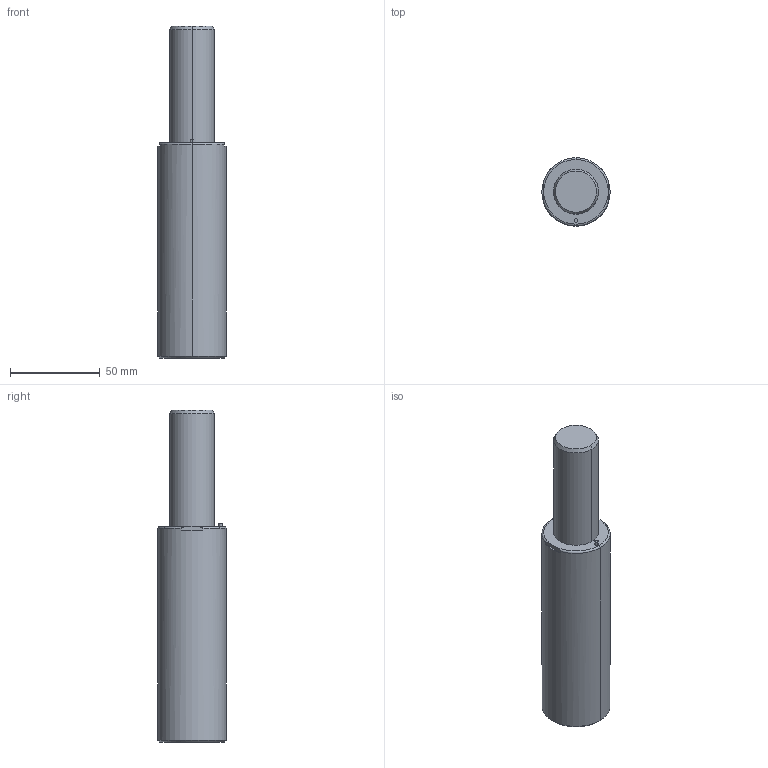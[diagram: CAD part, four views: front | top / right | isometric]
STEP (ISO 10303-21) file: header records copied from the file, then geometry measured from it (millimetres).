
FILE_DESCRIPTION(/* description */ (''),/* implementation_level */ '2;1');
FILE_NAME(/* name */ '3d_gsx38-63_03970_r00.stp',/* time_stamp */ '2011-01-10T14:15:13+09:00',/* author */ ('MISUMI'),/* organization */ (''),/* preprocessor_version */ 'ST-DEVELOPER v11',/* originating_system */ 'UGS - NX 5.0',/* authorisation */ '');
FILE_SCHEMA (('CONFIG_CONTROL_DESIGN'));
Length unit declared in the file: millimetre
Products named in the file (1): 3d_gsx38-63_03970_r00
Bounding box: 38 x 38 x 185 mm (x, y, z)
Volume: 165937.5 mm3; surface area: 22819.7 mm2
Topology: 1 solids, 1 shells, 59 faces, 128 edges, 76 vertices
Faces by surface type: cylinder 28, plane 15, cone 12, torus 4
Entity records: 1718 total; most frequent: CARTESIAN_POINT 328, DIRECTION 306, ORIENTED_EDGE 240, AXIS2_PLACEMENT_3D 130, EDGE_CURVE 120, VERTEX_POINT 76, EDGE_LOOP 72, CIRCLE 70
